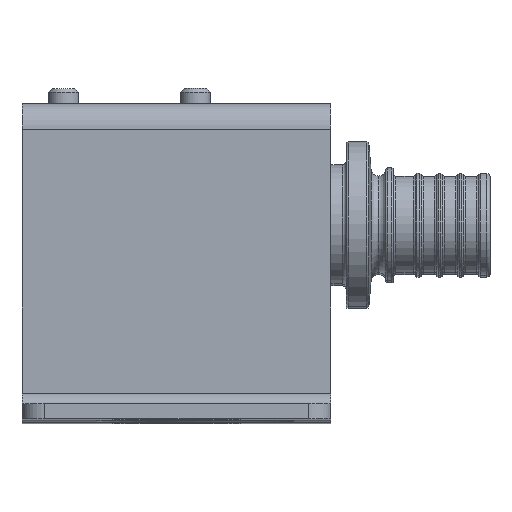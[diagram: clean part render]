
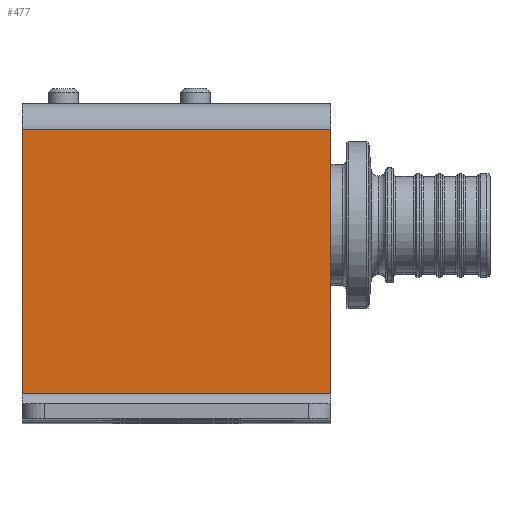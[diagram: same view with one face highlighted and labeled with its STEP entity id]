
A CAD part, top view. The second image highlights one B-rep face of the part: STEP entity #477.
In plain terms, the highlighted planar face has unit normal (0, 0, 1).
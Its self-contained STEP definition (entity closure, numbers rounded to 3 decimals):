
#477=ADVANCED_FACE('',(#3304),#3306,.F.);
#3304=FACE_BOUND('',#3305,.T.);
#3305=EDGE_LOOP('',(#14097,#14098,#14099,#14100));
#3306=PLANE('',#3307);
#3307=AXIS2_PLACEMENT_3D('',#3308,#3309,#3310);
#3308=CARTESIAN_POINT('',(-41.,240.113,243.5));
#3309=DIRECTION('',(0.,0.,-1.));
#3310=DIRECTION('',(1.,0.,0.));
#14097=ORIENTED_EDGE('',*,*,#19118,.T.);
#14098=ORIENTED_EDGE('',*,*,#19203,.F.);
#14099=ORIENTED_EDGE('',*,*,#19204,.T.);
#14100=ORIENTED_EDGE('',*,*,#19205,.F.);
#19118=EDGE_CURVE('',#21404,#21405,#21406,.T.);
#19203=EDGE_CURVE('',#21547,#21405,#21548,.T.);
#19204=EDGE_CURVE('',#21547,#21549,#21550,.T.);
#19205=EDGE_CURVE('',#21404,#21549,#21551,.T.);
#21404=VERTEX_POINT('',#25578);
#21405=VERTEX_POINT('',#25579);
#21406=LINE('',#25580,#25581);
#21547=VERTEX_POINT('',#26847);
#21548=LINE('',#26848,#26849);
#21549=VERTEX_POINT('',#26851);
#21550=LINE('',#26852,#26853);
#21551=LINE('',#26855,#26856);
#25578=CARTESIAN_POINT('',(0.,-3.5,243.5));
#25579=CARTESIAN_POINT('',(-41.,-3.5,243.5));
#25580=CARTESIAN_POINT('',(0.,-3.5,243.5));
#25581=VECTOR('',#25582,1.);
#25582=DIRECTION('',(-1.,0.,0.));
#26847=CARTESIAN_POINT('',(-41.,-38.5,243.5));
#26848=CARTESIAN_POINT('',(-41.,-38.5,243.5));
#26849=VECTOR('',#26850,1.);
#26850=DIRECTION('',(0.,1.,0.));
#26851=CARTESIAN_POINT('',(0.,-38.5,243.5));
#26852=CARTESIAN_POINT('',(-41.,-38.5,243.5));
#26853=VECTOR('',#26854,1.);
#26854=DIRECTION('',(1.,0.,0.));
#26855=CARTESIAN_POINT('',(0.,-3.5,243.5));
#26856=VECTOR('',#26857,1.);
#26857=DIRECTION('',(0.,-1.,0.));
